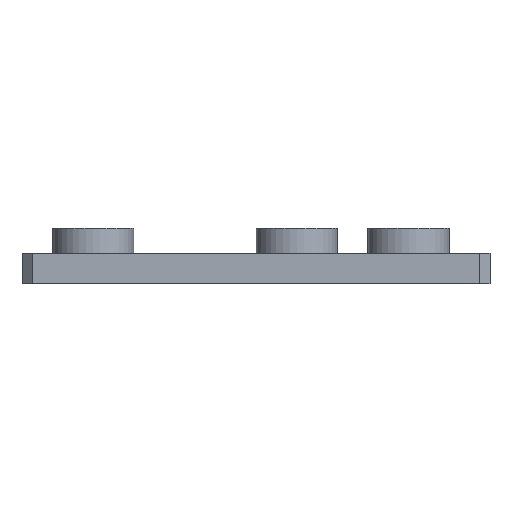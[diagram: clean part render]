
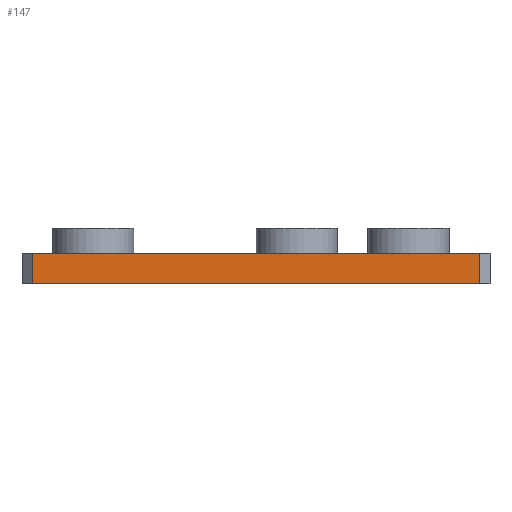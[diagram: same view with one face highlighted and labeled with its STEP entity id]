
A CAD part, front view. The second image highlights one B-rep face of the part: STEP entity #147.
In plain terms, the highlighted planar face has unit normal (0, -1, 0).
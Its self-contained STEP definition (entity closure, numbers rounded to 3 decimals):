
#26 = LINE ( 'NONE', #462, #1052 ) ;
#48 = FACE_OUTER_BOUND ( 'NONE', #427, .T. ) ;
#61 = VERTEX_POINT ( 'NONE', #112 ) ;
#67 = DIRECTION ( 'NONE',  ( 0., 0., -1. ) ) ;
#112 = CARTESIAN_POINT ( 'NONE',  ( -45., 0., 3. ) ) ;
#137 = ORIENTED_EDGE ( 'NONE', *, *, #653, .T. ) ;
#147 = ADVANCED_FACE ( 'NONE', ( #48 ), #217, .F. ) ;
#149 = DIRECTION ( 'NONE',  ( 1., 0., 0. ) ) ;
#161 = ORIENTED_EDGE ( 'NONE', *, *, #190, .T. ) ;
#190 = EDGE_CURVE ( 'NONE', #481, #373, #868, .T. ) ;
#212 = ORIENTED_EDGE ( 'NONE', *, *, #450, .F. ) ;
#217 = PLANE ( 'NONE',  #694 ) ;
#314 = DIRECTION ( 'NONE',  ( -1., 0., 0. ) ) ;
#323 = VECTOR ( 'NONE', #444, 1000. ) ;
#326 = CARTESIAN_POINT ( 'NONE',  ( -45., 0., 3. ) ) ;
#365 = CARTESIAN_POINT ( 'NONE',  ( -1., 0., 3. ) ) ;
#373 = VERTEX_POINT ( 'NONE', #438 ) ;
#408 = CARTESIAN_POINT ( 'NONE',  ( -1., 0., 0. ) ) ;
#427 = EDGE_LOOP ( 'NONE', ( #161, #908, #212, #137 ) ) ;
#438 = CARTESIAN_POINT ( 'NONE',  ( -1., 0., 0. ) ) ;
#444 = DIRECTION ( 'NONE',  ( 1., 0., 0. ) ) ;
#450 = EDGE_CURVE ( 'NONE', #61, #1129, #613, .T. ) ;
#456 = VECTOR ( 'NONE', #149, 1000. ) ;
#462 = CARTESIAN_POINT ( 'NONE',  ( -1., 0., 3. ) ) ;
#481 = VERTEX_POINT ( 'NONE', #541 ) ;
#500 = LINE ( 'NONE', #326, #528 ) ;
#528 = VECTOR ( 'NONE', #67, 1000. ) ;
#541 = CARTESIAN_POINT ( 'NONE',  ( -45., 0., 0. ) ) ;
#613 = LINE ( 'NONE', #365, #323 ) ;
#653 = EDGE_CURVE ( 'NONE', #61, #481, #500, .T. ) ;
#694 = AXIS2_PLACEMENT_3D ( 'NONE', #1110, #937, #314 ) ;
#868 = LINE ( 'NONE', #408, #456 ) ;
#876 = EDGE_CURVE ( 'NONE', #1129, #373, #26, .T. ) ;
#908 = ORIENTED_EDGE ( 'NONE', *, *, #876, .F. ) ;
#937 = DIRECTION ( 'NONE',  ( 0., 1., 0. ) ) ;
#966 = CARTESIAN_POINT ( 'NONE',  ( -1., 0., 3. ) ) ;
#1012 = DIRECTION ( 'NONE',  ( 0., 0., -1. ) ) ;
#1052 = VECTOR ( 'NONE', #1012, 1000. ) ;
#1110 = CARTESIAN_POINT ( 'NONE',  ( -1., 0., 3. ) ) ;
#1129 = VERTEX_POINT ( 'NONE', #966 ) ;
